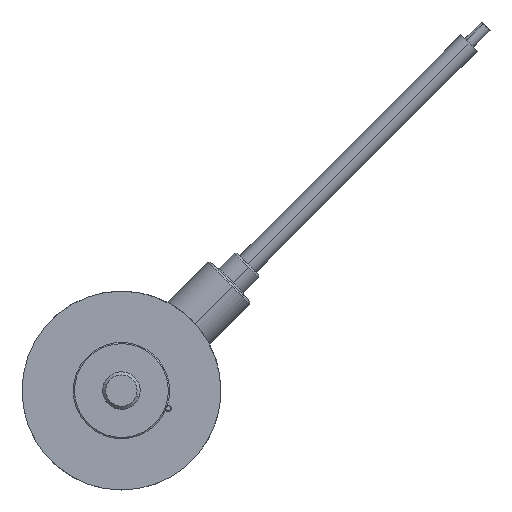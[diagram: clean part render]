
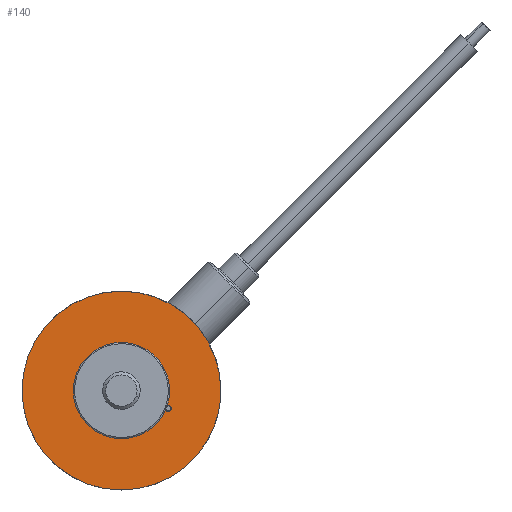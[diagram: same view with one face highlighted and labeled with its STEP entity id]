
A CAD part, front view. The second image highlights one B-rep face of the part: STEP entity #140.
In plain terms, the highlighted planar face has unit normal (0, -1, 0).
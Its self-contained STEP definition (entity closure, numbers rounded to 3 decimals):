
#140=ADVANCED_FACE('',(#286,#287),#288,.T.);
#286=FACE_OUTER_BOUND('',#438,.T.);
#287=FACE_BOUND('',#439,.T.);
#288=PLANE('',#440);
#438=EDGE_LOOP('',(#1042,#1043,#1044));
#439=EDGE_LOOP('',(#1045,#1046,#1047,#1048));
#440=AXIS2_PLACEMENT_3D('',#1049,#1050,#1051);
#1042=ORIENTED_EDGE('',*,*,#1228,.F.);
#1043=ORIENTED_EDGE('',*,*,#1227,.F.);
#1044=ORIENTED_EDGE('',*,*,#1144,.F.);
#1045=ORIENTED_EDGE('',*,*,#1240,.F.);
#1046=ORIENTED_EDGE('',*,*,#1090,.F.);
#1047=ORIENTED_EDGE('',*,*,#1241,.F.);
#1048=ORIENTED_EDGE('',*,*,#1092,.F.);
#1049=CARTESIAN_POINT('',(10.928,-2.95,-4.181));
#1050=DIRECTION('',(0.0,-1.0,0.0));
#1051=DIRECTION('',(0.0,0.0,-1.0));
#1090=EDGE_CURVE('',#1260,#1262,#1263,.T.);
#1092=EDGE_CURVE('',#1264,#1254,#1266,.T.);
#1144=EDGE_CURVE('',#1358,#1352,#1360,.T.);
#1227=EDGE_CURVE('',#1352,#1492,#1493,.T.);
#1228=EDGE_CURVE('',#1492,#1358,#1494,.T.);
#1240=EDGE_CURVE('',#1262,#1264,#1507,.T.);
#1241=EDGE_CURVE('',#1254,#1260,#1508,.T.);
#1254=VERTEX_POINT('',#1523);
#1260=VERTEX_POINT('',#1529);
#1262=VERTEX_POINT('',#1531);
#1263=CIRCLE('',#1532,7.7);
#1264=VERTEX_POINT('',#1533);
#1266=CIRCLE('',#1546,7.7);
#1352=VERTEX_POINT('',#1708);
#1358=VERTEX_POINT('',#1715);
#1360=CIRCLE('',#1718,15.9);
#1492=VERTEX_POINT('',#1874);
#1493=CIRCLE('',#1875,15.9);
#1494=CIRCLE('',#1876,15.9);
#1507=B_SPLINE_CURVE_WITH_KNOTS('',3,(#1912,#1913,#1914,#1915,#1916,#1917,#1918,#1919,#1920,#1921,#1922,#1923,#1924),.UNSPECIFIED.,.F.,.F.,(4,1,1,1,1,1,1,1,1,1,4),(-0.225,-0.194,-0.162,-0.131,-0.099,-0.083,-0.068,-0.036,-0.02,-0.013,-0.005),.UNSPECIFIED.);
#1508=CIRCLE('',#1925,7.7);
#1523=CARTESIAN_POINT('',(2.751,-2.95,7.192));
#1529=CARTESIAN_POINT('',(-2.751,-2.95,-7.192));
#1531=CARTESIAN_POINT('',(7.042,-2.95,-3.114));
#1532=AXIS2_PLACEMENT_3D('',#1955,#1956,#1957);
#1533=CARTESIAN_POINT('',(7.322,-2.95,-2.381));
#1546=AXIS2_PLACEMENT_3D('',#1958,#1959,#1960);
#1708=CARTESIAN_POINT('',(15.9,-2.95,0.));
#1715=CARTESIAN_POINT('',(-15.9,-2.95,0.));
#1718=AXIS2_PLACEMENT_3D('',#2067,#2068,#2069);
#1874=CARTESIAN_POINT('',(14.85,-2.95,-5.682));
#1875=AXIS2_PLACEMENT_3D('',#2268,#2269,#2270);
#1876=AXIS2_PLACEMENT_3D('',#2271,#2272,#2273);
#1912=CARTESIAN_POINT('',(7.042,-2.95,-3.114));
#1913=CARTESIAN_POINT('',(7.097,-2.95,-3.207));
#1914=CARTESIAN_POINT('',(7.265,-2.95,-3.352));
#1915=CARTESIAN_POINT('',(7.597,-2.95,-3.378));
#1916=CARTESIAN_POINT('',(7.881,-2.95,-3.203));
#1917=CARTESIAN_POINT('',(7.983,-2.95,-2.944));
#1918=CARTESIAN_POINT('',(7.964,-2.95,-2.732));
#1919=CARTESIAN_POINT('',(7.875,-2.95,-2.534));
#1920=CARTESIAN_POINT('',(7.716,-2.95,-2.395));
#1921=CARTESIAN_POINT('',(7.504,-2.95,-2.354));
#1922=CARTESIAN_POINT('',(7.397,-2.95,-2.362));
#1923=CARTESIAN_POINT('',(7.342,-2.95,-2.375));
#1924=CARTESIAN_POINT('',(7.322,-2.95,-2.381));
#1925=AXIS2_PLACEMENT_3D('',#2301,#2302,#2303);
#1955=CARTESIAN_POINT('',(0.,-2.95,0.));
#1956=DIRECTION('',(0.,-1.0,0.));
#1957=DIRECTION('',(-0.934,0.,0.357));
#1958=CARTESIAN_POINT('',(0.,-2.95,0.));
#1959=DIRECTION('',(0.,-1.0,0.));
#1960=DIRECTION('',(-0.934,0.,0.357));
#2067=CARTESIAN_POINT('',(0.,-2.95,0.));
#2068=DIRECTION('',(0.,1.0,0.));
#2069=DIRECTION('',(0.934,0.,-0.357));
#2268=CARTESIAN_POINT('',(0.,-2.95,0.));
#2269=DIRECTION('',(0.,1.0,0.));
#2270=DIRECTION('',(0.934,0.,-0.357));
#2271=CARTESIAN_POINT('',(0.,-2.95,0.));
#2272=DIRECTION('',(0.,1.0,0.));
#2273=DIRECTION('',(0.934,0.,-0.357));
#2301=CARTESIAN_POINT('',(0.,-2.95,0.));
#2302=DIRECTION('',(0.,-1.0,0.));
#2303=DIRECTION('',(-0.934,0.,0.357));
